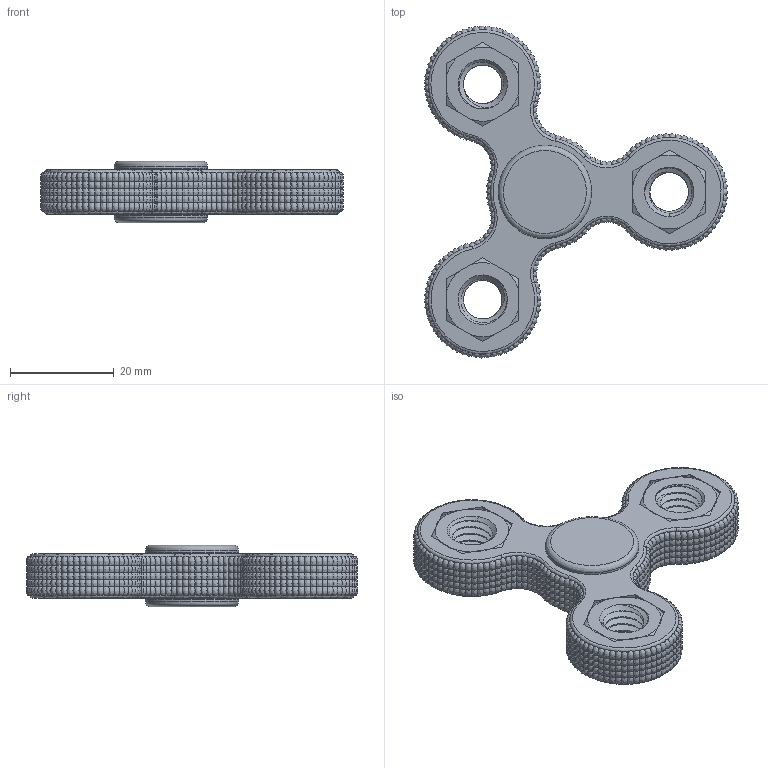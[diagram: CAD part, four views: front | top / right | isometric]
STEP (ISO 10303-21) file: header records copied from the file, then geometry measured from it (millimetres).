
FILE_DESCRIPTION ((), '1');
FILE_NAME ('/Volumes/Data/Drawings/Moi3D/Moi3D Models/fidget 025 shaft 375 nuts/fidget 025 bearing 20211222-01.stp', '2021-12-22T16:22:17', ('Unknown'), ('Unknown'), 'HarmonyWare STEP v2.1.4', 'HarmonyWare Translators', '');
FILE_SCHEMA (('CONFIG_CONTROL_DESIGN'));
Length unit declared in the file: millimetre
Products named in the file (8): fidget; nut 3/8-16 hex (CAD --14mm flats); bearing 1/4 shaft x 0.625 x 0.195in thic; hub
Assembly tree (7 placements, depth 2):
  (unnamed)
    fidget
    nut 3/8-16 hex (CAD --14mm flats)
    nut 3/8-16 hex (CAD --14mm flats)
    nut 3/8-16 hex (CAD --14mm flats)
    bearing 1/4 shaft x 0.625 x 0.195in thic
    hub
    hub
Bounding box: 58.49 x 64.06 x 11.88 mm (x, y, z)
Volume: 12919.2 mm3; surface area: 10780.5 mm2
Topology: 7 solids, 7 shells, 2400 faces, 10088 edges, 6704 vertices
Faces by surface type: bspline 2400
Entity records: 507762 total; most frequent: CARTESIAN_POINT 457929, ORIENTED_EDGE 18176, EDGE_CURVE 9088, B_SPLINE_CURVE_WITH_KNOTS 7503, VERTEX_POINT 6704, EDGE_LOOP 2418, FACE_OUTER_BOUND 2400, ADVANCED_FACE 2400
